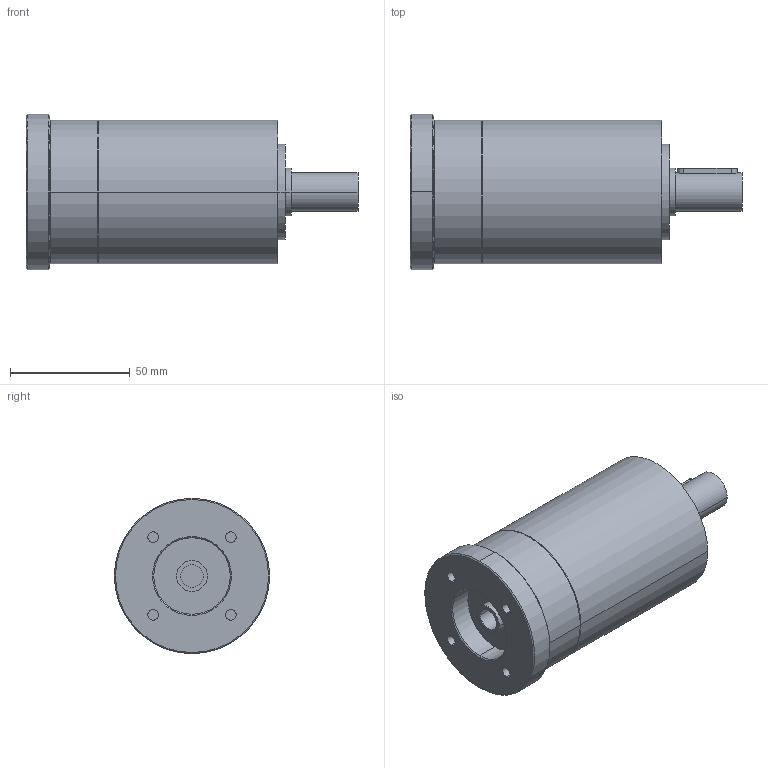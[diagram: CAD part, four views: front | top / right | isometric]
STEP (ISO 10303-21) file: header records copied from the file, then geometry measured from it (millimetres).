
FILE_DESCRIPTION(('CoCreate Modeling STEP Export'),'2;1');
FILE_NAME('GPR75_ig-9-12-16-20-24-30-36_16_B14_9.52_P12.stp','2014-08-25T16:06:38',(''),(''),'CoCreate Modeling STEP processor for AP214 (Solid Model)','CoCreate Modeling 16.00C 25-Feb-2009 (C) Parametric Technology GmbH','');
FILE_SCHEMA(('AUTOMOTIVE_DESIGN { 1 0 10303 214 1 1 1 1 }'));
Length unit declared in the file: millimetre
Products named in the file (2): GPR75_ig-9-12-16-20-24-30-36_16_B14_9.52_P12
Assembly tree (1 placements, depth 2):
  GPR75_ig-9-12-16-20-24-30-36_16_B14_9.52_P12
    GPR75_ig-9-12-16-20-24-30-36_16_B14_9.52_P12
Bounding box: 138.9 x 65 x 65 mm (x, y, z)
Volume: 302826 mm3; surface area: 31953.1 mm2
Topology: 1 solids, 1 shells, 73 faces, 188 edges, 132 vertices
Faces by surface type: cylinder 38, plane 21, cone 14
Entity records: 1866 total; most frequent: ORIENTED_EDGE 372, CARTESIAN_POINT 344, DIRECTION 238, EDGE_CURVE 186, VERTEX_POINT 132, AXIS2_PLACEMENT_3D 90, EDGE_LOOP 90, FACE_OUTER_BOUND 73
